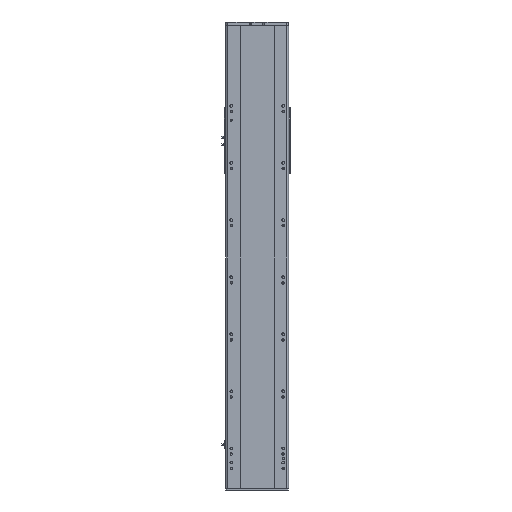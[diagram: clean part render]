
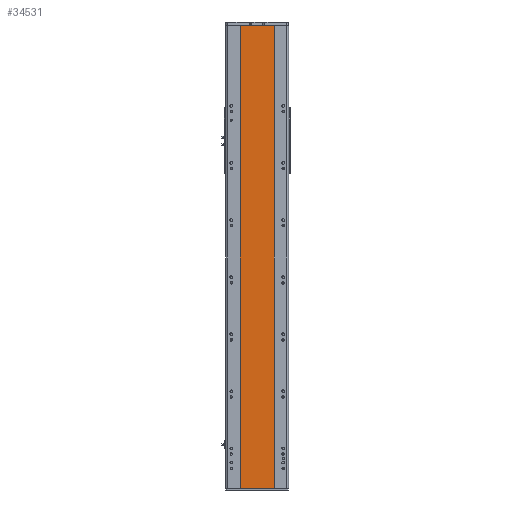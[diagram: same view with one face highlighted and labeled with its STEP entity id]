
A CAD part, front view. The second image highlights one B-rep face of the part: STEP entity #34531.
In plain terms, the highlighted planar face has unit normal (0, -1, 0).
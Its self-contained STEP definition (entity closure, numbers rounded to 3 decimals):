
#19 = EDGE_LOOP ( 'NONE', ( #31008, #1825, #33637, #33163 ) ) ;
#233 = VECTOR ( 'NONE', #37838, 1000. ) ;
#687 = DIRECTION ( 'NONE',  ( 0., 1., 0. ) ) ;
#1825 = ORIENTED_EDGE ( 'NONE', *, *, #35086, .F. ) ;
#1972 = CARTESIAN_POINT ( 'NONE',  ( -59., 1., 810.5 ) ) ;
#2438 = EDGE_CURVE ( 'NONE', #24831, #24920, #17537, .T. ) ;
#3228 = DIRECTION ( 'NONE',  ( -1., 0., 0. ) ) ;
#3294 = VECTOR ( 'NONE', #30490, 1000. ) ;
#3604 = CARTESIAN_POINT ( 'NONE',  ( -59., 1., 810.5 ) ) ;
#4336 = FACE_OUTER_BOUND ( 'NONE', #19, .T. ) ;
#4590 = EDGE_CURVE ( 'NONE', #38600, #24831, #35156, .T. ) ;
#5569 = CARTESIAN_POINT ( 'NONE',  ( -59., 1., 810.5 ) ) ;
#5733 = LINE ( 'NONE', #6098, #11882 ) ;
#5958 = DIRECTION ( 'NONE',  ( 0., 0., -1. ) ) ;
#6098 = CARTESIAN_POINT ( 'NONE',  ( 59., 1., 810.5 ) ) ;
#6834 = VECTOR ( 'NONE', #11641, 1000. ) ;
#7753 = CARTESIAN_POINT ( 'NONE',  ( -59., 1., 810.5 ) ) ;
#11641 = DIRECTION ( 'NONE',  ( 0., 0., -1. ) ) ;
#11882 = VECTOR ( 'NONE', #5958, 1000. ) ;
#16376 = CARTESIAN_POINT ( 'NONE',  ( 59., 1., 810.5 ) ) ;
#17537 = LINE ( 'NONE', #26442, #3294 ) ;
#18500 = AXIS2_PLACEMENT_3D ( 'NONE', #3604, #687, #3228 ) ;
#18614 = PLANE ( 'NONE',  #18500 ) ;
#24831 = VERTEX_POINT ( 'NONE', #31227 ) ;
#24920 = VERTEX_POINT ( 'NONE', #25318 ) ;
#25318 = CARTESIAN_POINT ( 'NONE',  ( 59., 1., -810.5 ) ) ;
#26442 = CARTESIAN_POINT ( 'NONE',  ( -59., 1., -810.5 ) ) ;
#29073 = VERTEX_POINT ( 'NONE', #16376 ) ;
#30490 = DIRECTION ( 'NONE',  ( 1., 0., 0. ) ) ;
#31008 = ORIENTED_EDGE ( 'NONE', *, *, #2438, .T. ) ;
#31227 = CARTESIAN_POINT ( 'NONE',  ( -59., 1., -810.5 ) ) ;
#31723 = EDGE_CURVE ( 'NONE', #38600, #29073, #37587, .T. ) ;
#33163 = ORIENTED_EDGE ( 'NONE', *, *, #4590, .T. ) ;
#33637 = ORIENTED_EDGE ( 'NONE', *, *, #31723, .F. ) ;
#34531 = ADVANCED_FACE ( 'NONE', ( #4336 ), #18614, .F. ) ;
#35086 = EDGE_CURVE ( 'NONE', #29073, #24920, #5733, .T. ) ;
#35156 = LINE ( 'NONE', #5569, #6834 ) ;
#37587 = LINE ( 'NONE', #7753, #233 ) ;
#37838 = DIRECTION ( 'NONE',  ( 1., 0., 0. ) ) ;
#38600 = VERTEX_POINT ( 'NONE', #1972 ) ;
